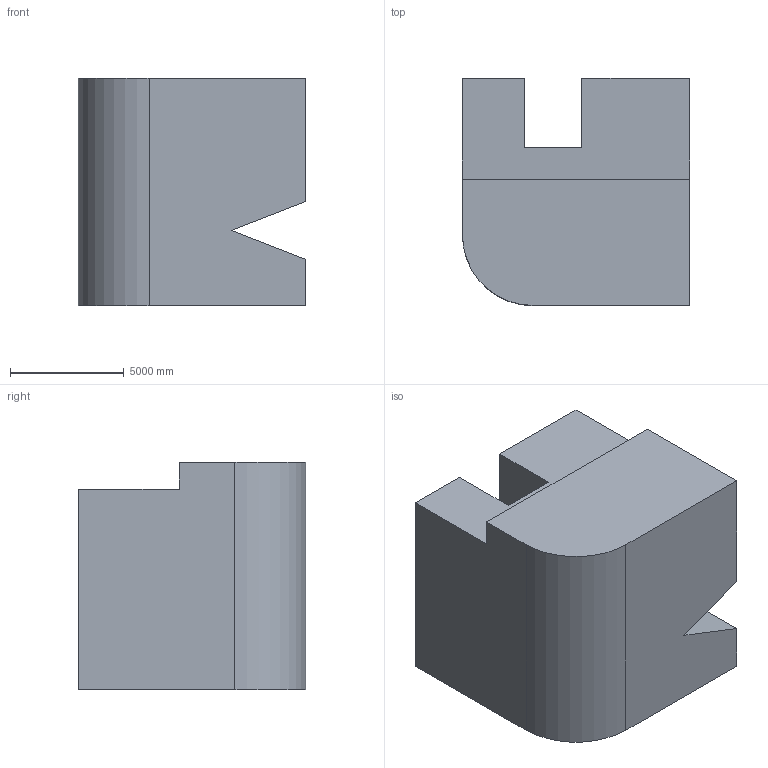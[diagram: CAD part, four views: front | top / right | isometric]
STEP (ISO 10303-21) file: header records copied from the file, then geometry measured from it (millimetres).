
FILE_DESCRIPTION (( 'STEP AP203' ), '1' );
FILE_NAME ('1369.STEP', '2022-08-18T14:05:11', ( 'user' ), ( '' ), 'SwSTEP 2.0', 'SolidWorks 2021', '' );
FILE_SCHEMA (( 'CONFIG_CONTROL_DESIGN' ));
Length unit declared in the file: centimetre
Products named in the file (1): 1369
Bounding box: 10000 x 10000 x 10000 mm (x, y, z)
Volume: 817418846383.5 mm3; surface area: 646857690.5 mm2
Topology: 1 solids, 1 shells, 16 faces, 42 edges, 28 vertices
Faces by surface type: plane 15, cylinder 1
Entity records: 565 total; most frequent: CARTESIAN_POINT 87, ORIENTED_EDGE 84, DIRECTION 78, EDGE_CURVE 42, VECTOR 40, LINE 40, VERTEX_POINT 28, AXIS2_PLACEMENT_3D 19
